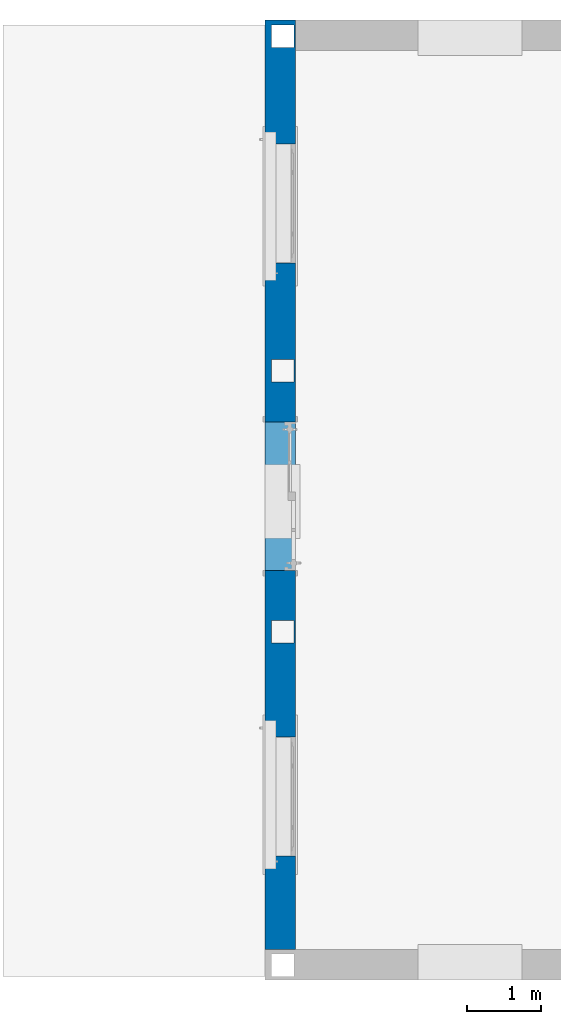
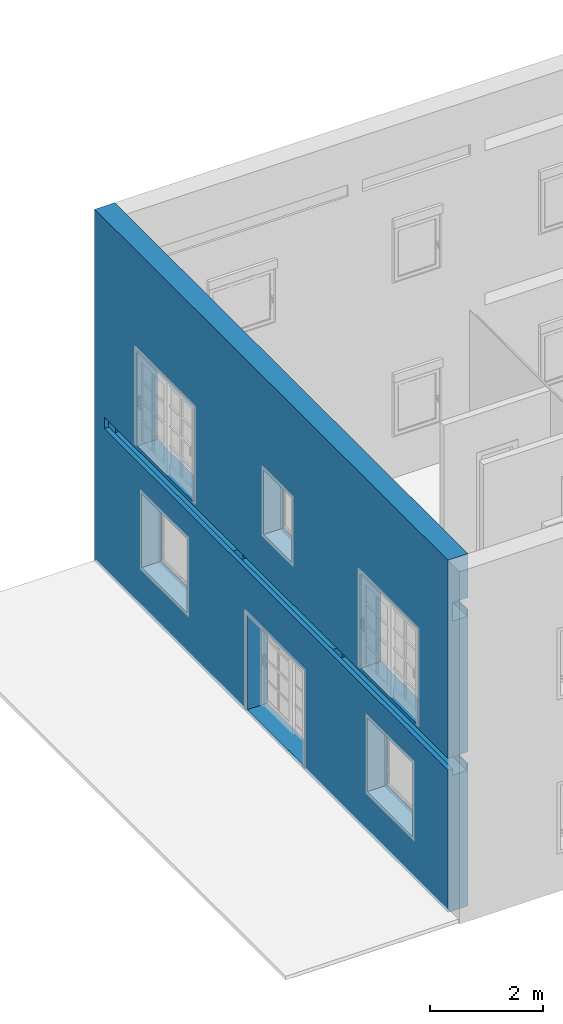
# One storey, part 8 of 11: 1 wall, 6 openings.
"""IFC2X3 building model written with IfcOpenShell, lengths in metres."""

from ifc_helpers import new_model, entity, si_unit, converted_unit, derived_unit, direction, frame, frame_2d, origin, place, context, subcontext, project, spatial, rectangle, extrude, faceted_brep, material, layer, layer_set, type_object, element, save


model = new_model("IFC2X3")

# Units and contexts
model_context = context("Model", 3, precision=1e-05, world=origin(), true_north=direction((6.12303176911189e-17, 1.0)))
context_of_model = context(None, 3, precision=1e-05, world=origin(), true_north=direction((6.12303176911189e-17, 1.0)))
body_context = subcontext(model_context, "Body", "Model", "MODEL_VIEW")
ifc_project = project(units=[si_unit("LENGTHUNIT", "METRE"), si_unit("AREAUNIT", "SQUARE_METRE"), si_unit("VOLUMEUNIT", "CUBIC_METRE"), converted_unit("PLANEANGLEUNIT", "DEGREE", entity("IfcRatioMeasure", 0.0174532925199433), si_unit("PLANEANGLEUNIT", "RADIAN"), dimensions=[0, 0, 0, 0, 0, 0, 0]), si_unit("MASSUNIT", "GRAM", prefix="KILO"), si_unit("TIMEUNIT", "SECOND"), si_unit("FREQUENCYUNIT", "HERTZ"), si_unit("THERMODYNAMICTEMPERATUREUNIT", "DEGREE_CELSIUS"), derived_unit("THERMALTRANSMITTANCEUNIT", [(si_unit("MASSUNIT", "GRAM", prefix="KILO"), 1), (si_unit("THERMODYNAMICTEMPERATUREUNIT", "KELVIN"), -1), (si_unit("TIMEUNIT", "SECOND"), -3)]), derived_unit("VOLUMETRICFLOWRATEUNIT", [(si_unit("LENGTHUNIT", "METRE"), 3), (si_unit("TIMEUNIT", "SECOND"), -1)]), si_unit("ELECTRICCURRENTUNIT", "AMPERE"), si_unit("ELECTRICVOLTAGEUNIT", "VOLT"), si_unit("POWERUNIT", "WATT"), si_unit("FORCEUNIT", "NEWTON", prefix="KILO"), si_unit("ILLUMINANCEUNIT", "LUX"), si_unit("LUMINOUSFLUXUNIT", "LUMEN"), si_unit("LUMINOUSINTENSITYUNIT", "CANDELA"), si_unit("PRESSUREUNIT", "PASCAL")], contexts=[model_context, context_of_model])

# Site, building, storey
site_placement = place(None, origin())
site = spatial("IfcSite", under=ifc_project, at=site_placement, Name="Default", CompositionType="ELEMENT")
building_placement = place(site_placement, origin())
building = spatial("IfcBuilding", under=site, at=building_placement, CompositionType="ELEMENT")
storey_placement = place(building_placement, frame((0.0, 0.0, 0.12)))
storey = spatial("IfcBuildingStorey", under=building, at=storey_placement, Name="01.ES.FORJADO PLANTA BAJA", CompositionType="ELEMENT", Elevation=0.12)

# Wall, openings
ifc_material_1 = material(Name="APL-Enfoscado de mortero de cemento de resistencia muy alta a la filtración (B3)")
ifc_layer_1 = layer(ifc_material_1, 0.015)
ifc_material_2 = material(Name="APL-Pared de obra de fabrica de ladrillo ceramico perforado, de e=11,5cm")
ifc_layer_2 = layer(ifc_material_2, 0.115)
ifc_material_3 = material(Name="APL-Camara de aire no ventilada")
ifc_layer_3 = layer(ifc_material_3, 0.075)
ifc_material_4 = material(Name="APL-Poliestireno expandido elastificado de e=0.037")
ifc_layer_4 = layer(ifc_material_4, 0.12)
ifc_material_5 = material(Name="APL-Tabique de obra de fabrica de ladrillo ceramico hueco doble, de e=7cm")
ifc_layer_5 = layer(ifc_material_5, 0.07)
ifc_material_6 = material(Name="APL-Guarnecido de yeso")
ifc_layer_6 = layer(ifc_material_6, 0.015)
ifc_layer_set = layer_set([ifc_layer_1, ifc_layer_2, ifc_layer_3, ifc_layer_4, ifc_layer_5, ifc_layer_6], Name="Muro básico:F3.2")
wall_type = type_object("IfcWallType", Name="Muro básico:F3.2", PredefinedType="STANDARD", material=ifc_layer_set)
wall_placement = place(storey_placement, frame((4.17999999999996, 0.815000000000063, 0.0), z_axis=(0.0, 0.0, 1.0), x_axis=(0.0, 1.0, 0.0)))
wall = element("IfcWall", 1, at=wall_placement, inside=storey, type_object=wall_type, Name="Muro básico:F3.2", ObjectType="Muro básico:F3.2", context=body_context, shape_type="Brep", body=[
    faceted_brep([(0.0, -0.205, 0.0), (12.0915177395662, -0.205, 0.0), (12.5015177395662, -0.205, 0.0), (12.5015177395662, -0.205, 7.61), (12.0915177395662, -0.205, 7.61), (0.0, -0.205, 7.61), (0.0, -0.205, 6.66), (12.0915177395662, -0.205, 6.66), (12.1349999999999, -0.205, 6.66), (12.1349999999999, -0.205, 6.41), (12.0915177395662, -0.205, 6.41), (7.24006108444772, -0.205, 6.41), (7.09006108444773, -0.205, 6.41), (4.44006108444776, -0.205, 6.41), (4.29006108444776, -0.205, 6.41), (0.0, -0.205, 6.41), (0.0, -0.205, 3.33), (4.29006108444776, -0.205, 3.33), (4.44006108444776, -0.205, 3.33), (7.09006108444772, -0.205, 3.33), (7.24006108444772, -0.205, 3.33), (12.1599999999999, -0.205, 3.33), (12.1599999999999, -0.205, 3.08), (0.0, -0.205, 3.08), (1.08003054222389, -0.205, 3.41), (1.08003054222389, -0.205, 5.45999999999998), (3.08003054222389, -0.205, 5.45999999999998), (3.08003054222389, -0.205, 3.41), (8.99651773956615, -0.205, 3.41), (8.99651773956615, -0.205, 5.45999999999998), (10.9965177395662, -0.205, 5.45999999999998), (10.9965177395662, -0.205, 3.41), (7.09651773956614, -0.205, 2.12999999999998), (7.09651773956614, -0.205, 0.0800000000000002), (5.09651773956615, -0.205, 0.0800000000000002), (5.09651773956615, -0.205, 2.12999999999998), (9.23651773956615, -0.205, 0.879999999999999), (9.23651773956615, -0.205, 2.48), (10.8365177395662, -0.205, 2.48), (10.8365177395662, -0.205, 0.879999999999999), (1.255, -0.205, 0.879999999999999), (1.255, -0.205, 2.48), (2.855, -0.205, 2.48), (2.855, -0.205, 0.879999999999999), (5.52506108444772, -0.205, 4.21), (5.52506108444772, -0.205, 5.61), (6.52506108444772, -0.205, 5.61), (6.52506108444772, -0.205, 4.21), (12.5015177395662, 0.205, 0.0), (0.0, 0.205, 0.0), (0.0, 0.205, 3.08), (12.1599999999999, 0.205, 3.08), (12.1599999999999, 0.205, 3.33), (0.0, 0.205, 3.33), (0.0, 0.205, 7.61), (12.5015177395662, 0.205, 7.61), (1.08003054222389, 0.205, 5.45999999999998), (1.08003054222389, 0.205, 3.41), (3.08003054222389, 0.205, 3.41), (3.08003054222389, 0.205, 5.45999999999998), (8.99651773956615, 0.205, 5.45999999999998), (8.99651773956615, 0.205, 3.41), (10.9965177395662, 0.205, 3.41), (10.9965177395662, 0.205, 5.45999999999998), (7.09651773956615, 0.205, 0.0800000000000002), (7.09651773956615, 0.205, 2.12999999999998), (5.09651773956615, 0.205, 2.12999999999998), (5.09651773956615, 0.205, 0.0800000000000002), (9.23651773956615, 0.205, 2.48), (9.23651773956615, 0.205, 0.879999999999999), (10.8365177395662, 0.205, 0.879999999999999), (10.8365177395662, 0.205, 2.48), (1.255, 0.205, 2.48), (1.255, 0.205, 0.879999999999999), (2.855, 0.205, 0.879999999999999), (2.855, 0.205, 2.48), (5.52506108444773, 0.205, 5.61), (5.52506108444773, 0.205, 4.21), (6.52506108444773, 0.205, 4.21), (6.52506108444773, 0.205, 5.61), (12.4349999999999, -0.18500000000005, 0.0), (12.4349999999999, 0.11499999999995, 0.0), (12.1349999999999, 0.114999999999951, 0.0), (12.1349999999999, -0.185000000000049, 0.0), (7.93499999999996, -0.185000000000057, 0.0), (7.93499999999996, 0.114999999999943, 0.0), (7.63499999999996, 0.114999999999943, 0.0), (7.63499999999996, -0.185000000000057, 0.0), (4.42506108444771, -0.185000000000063, 0.0), (4.42506108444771, 0.114999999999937, 0.0), (4.12506108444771, 0.114999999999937, 0.0), (4.12506108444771, -0.185000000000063, 0.0), (12.1599999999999, -0.185000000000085, 3.33), (12.1599999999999, 0.11499999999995, 3.33), (12.1349999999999, 0.11499999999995, 3.33), (12.1349999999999, -0.185000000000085, 3.33), (4.12506108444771, 0.114999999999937, 3.33), (4.12506108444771, -0.185000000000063, 3.33), (4.42506108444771, -0.185000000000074, 3.33), (4.42506108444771, 0.114999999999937, 3.33), (7.93499999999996, -0.185000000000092, 3.33), (7.93499999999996, 0.114999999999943, 3.33), (7.63499999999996, 0.114999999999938, 3.33), (7.63499999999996, -0.185000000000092, 3.33), (7.63499999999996, -0.185000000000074, 2.93), (4.42506108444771, -0.185000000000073, 2.93), (4.12506108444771, -0.185000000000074, 2.93), (0.0, -0.185000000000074, 2.93), (0.0, -0.185000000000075, 3.08), (12.1599999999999, -0.185000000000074, 3.08), (12.1349999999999, -0.185000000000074, 6.41), (12.1349999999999, -0.185000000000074, 6.66), (12.4349999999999, -0.18500000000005, 6.66), (12.4349999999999, -0.18500000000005, 3.33), (12.1349999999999, -0.185000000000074, 2.93), (7.93499999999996, -0.185000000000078, 2.93), (4.12506108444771, 0.114999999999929, 2.93), (0.0, 0.114999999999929, 2.93), (7.93499999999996, 0.11499999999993, 2.93), (12.1349999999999, 0.11499999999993, 2.93), (12.4349999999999, 0.114999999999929, 3.33), (12.4349999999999, 0.114999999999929, 6.66), (12.1349999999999, 0.114999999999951, 6.66), (12.1599999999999, 0.114999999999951, 3.08), (0.0, 0.11499999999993, 3.08), (4.42506108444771, 0.114999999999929, 2.93), (7.63499999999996, 0.11499999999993, 2.93), (0.0, 0.114999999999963, 6.66), (4.12506108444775, 0.114999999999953, 6.66), (4.42506108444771, 0.114999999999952, 6.66), (7.63499999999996, 0.114999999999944, 6.66), (7.93499999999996, 0.114999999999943, 6.66), (7.93499999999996, -0.185000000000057, 6.66), (4.12506108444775, -0.185000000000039, 6.26), (0.0, -0.185000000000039, 6.26), (0.0, -0.18500000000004, 6.41), (7.93499999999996, -0.185000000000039, 6.41), (7.63499999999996, -0.185000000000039, 6.26), (4.42506108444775, -0.185000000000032, 6.26), (4.12506108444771, 0.114999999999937, 6.26), (0.0, 0.114999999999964, 6.26), (4.42506108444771, 0.114999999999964, 6.26), (7.63499999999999, 0.114999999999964, 6.26)], [[[0, 1, 2, 3, 4, 5, 6, 7, 8, 9, 10, 11, 12, 13, 14, 15, 16, 17, 18, 19, 20, 21, 22, 23], [24, 25, 26, 27], [28, 29, 30, 31], [32, 33, 34, 35], [36, 37, 38, 39], [40, 41, 42, 43], [44, 45, 46, 47]], [[48, 49, 50, 51, 52, 53, 54, 55], [56, 57, 58, 59], [60, 61, 62, 63], [64, 65, 66, 67], [68, 69, 70, 71], [72, 73, 74, 75], [76, 77, 78, 79]], [[2, 1, 0, 49, 48], [80, 81, 82, 83], [84, 85, 86, 87], [88, 89, 90, 91]], [[5, 4, 3, 55, 54]], [[92, 21, 20, 19, 18, 17, 16, 53, 52, 93, 94, 95], [96, 97, 98, 99], [100, 101, 102, 103]], [[84, 87, 104, 105, 88, 91, 106, 107, 108, 109, 92, 95, 110, 111, 112, 113, 80, 83, 114, 115]], [[107, 106, 116, 117]], [[86, 85, 118, 119, 82, 81, 120, 121, 122, 94, 93, 123, 124, 117, 116, 90, 89, 125, 126]], [[111, 8, 7, 6, 127, 128, 129, 130, 131, 132]], [[133, 134, 135, 136, 100, 103, 137, 138, 98, 97]], [[134, 133, 139, 140]], [[140, 139, 96, 99, 141, 142, 102, 101, 131, 130, 129, 128, 127]], [[9, 110, 136, 135, 15, 14, 13, 12, 11, 10]], [[110, 111, 132, 136]], [[111, 110, 9, 8]], [[22, 109, 108, 23]], [[109, 22, 21, 92]], [[124, 123, 51, 50]], [[51, 123, 93, 52]], [[25, 24, 57, 56]], [[26, 25, 56, 59]], [[27, 26, 59, 58]], [[24, 27, 58, 57]], [[29, 28, 61, 60]], [[30, 29, 60, 63]], [[31, 30, 63, 62]], [[28, 31, 62, 61]], [[65, 64, 33, 32]], [[66, 65, 32, 35]], [[67, 66, 35, 34]], [[64, 67, 34, 33]], [[121, 112, 111, 122]], [[112, 121, 120, 81, 80, 113]], [[122, 111, 110, 95, 94]], [[99, 98, 138, 141]], [[133, 97, 96, 139]], [[132, 131, 101, 100, 136]], [[103, 102, 142, 137]], [[90, 116, 106, 91]], [[37, 36, 69, 68]], [[38, 37, 68, 71]], [[39, 38, 71, 70]], [[36, 39, 70, 69]], [[41, 40, 73, 72]], [[42, 41, 72, 75]], [[43, 42, 75, 74]], [[40, 43, 74, 73]], [[45, 44, 77, 76]], [[46, 45, 76, 79]], [[47, 46, 79, 78]], [[44, 47, 78, 77]], [[126, 125, 105, 104]], [[138, 137, 142, 141]], [[119, 118, 115, 114]], [[2, 48, 55, 3]], [[49, 0, 23, 108, 107, 117, 124, 50]], [[5, 54, 53, 16, 15, 135, 134, 140, 127, 6]], [[87, 86, 126, 104]], [[85, 84, 115, 118]], [[89, 88, 105, 125]], [[83, 82, 119, 114]]]),
])
opening_1_placement = place(wall_placement, frame((1.08003054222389, -0.204999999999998, 3.41)))
element("IfcOpeningElement", 2, at=opening_1_placement, cuts=wall, Name="Puerta Balcón - 2 hojas corredizas:200 x 205 cm - 8 Vidrios repartidos:1", ObjectType="Opening", context=body_context, shape_type="SweptSolid", body=[
    extrude(rectangle(XDim=2.04999999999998, YDim=2.0, at=frame_2d((1.02499999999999, 1.0), x_axis=(1.0, 0.0))), frame((0.0, 0.0, 0.0), z_axis=(0.0, 1.0, 0.0), x_axis=(0.0, 0.0, 1.0)), (0.0, 0.0, 1.0), 0.41),
])
opening_2_placement = place(wall_placement, frame((8.99651773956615, -0.204999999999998, 3.41)))
element("IfcOpeningElement", 3, at=opening_2_placement, cuts=wall, Name="Puerta Balcón - 2 hojas corredizas:200 x 205 cm - 8 Vidrios repartidos:1", ObjectType="Opening", context=body_context, shape_type="SweptSolid", body=[
    extrude(rectangle(XDim=2.04999999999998, YDim=2.0, at=frame_2d((1.02499999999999, 1.0), x_axis=(1.0, 0.0))), frame((0.0, 0.0, 0.0), z_axis=(0.0, 1.0, 0.0), x_axis=(0.0, 0.0, 1.0)), (0.0, 0.0, 1.0), 0.41),
])
opening_3_placement = place(wall_placement, frame((7.09651773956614, 0.204999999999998, 0.0799999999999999)))
element("IfcOpeningElement", 4, at=opening_3_placement, cuts=wall, Name="Puerta Balcón - 2 hojas corredizas:200 x 205 cm - 8 Vidrios repartidos:1", ObjectType="Opening", context=body_context, shape_type="SweptSolid", body=[
    extrude(rectangle(XDim=2.04999999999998, YDim=2.0, at=frame_2d((1.02499999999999, 0.999999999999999), x_axis=(1.0, 0.0))), frame((0.0, 0.0, 0.0), z_axis=(0.0, -1.0, 0.0), x_axis=(0.0, 0.0, 1.0)), (0.0, 0.0, 1.0), 0.41),
])
opening_4_placement = place(wall_placement, frame((9.23651773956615, -0.205000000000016, 0.879999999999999)))
element("IfcOpeningElement", 5, at=opening_4_placement, cuts=wall, Name="Ventana 1 hoja:VE1_160 x 160 cm:1", ObjectType="Opening", context=body_context, shape_type="SweptSolid", body=[
    extrude(rectangle(XDim=1.6, YDim=1.6, at=frame_2d((0.8, 0.800000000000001), x_axis=(1.0, 0.0))), frame((0.0, 0.0, 0.0), z_axis=(0.0, 1.0, 0.0), x_axis=(0.0, 0.0, 1.0)), (0.0, 0.0, 1.0), 0.41),
])
opening_5_placement = place(wall_placement, frame((1.255, -0.205000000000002, 0.879999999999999)))
element("IfcOpeningElement", 6, at=opening_5_placement, cuts=wall, Name="Ventana 1 hoja:VE1_160 x 160 cm:1", ObjectType="Opening", context=body_context, shape_type="SweptSolid", body=[
    extrude(rectangle(XDim=1.6, YDim=1.6, at=frame_2d((0.8, 0.8), x_axis=(1.0, 0.0))), frame((0.0, 0.0, 0.0), z_axis=(0.0, 1.0, 0.0), x_axis=(0.0, 0.0, 1.0)), (0.0, 0.0, 1.0), 0.41),
])
opening_6_placement = place(wall_placement, frame((5.52506108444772, -0.205000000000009, 4.21)))
element("IfcOpeningElement", 7, at=opening_6_placement, cuts=wall, Name="Ventana 1 hoja:VE1_100 x 140 cm:1", ObjectType="Opening", context=body_context, shape_type="SweptSolid", body=[
    extrude(rectangle(XDim=1.4, YDim=1.0, at=frame_2d((0.7, 0.5), x_axis=(1.0, 0.0))), frame((0.0, 0.0, 0.0), z_axis=(0.0, 1.0, 0.0), x_axis=(0.0, 0.0, 1.0)), (0.0, 0.0, 1.0), 0.41),
])

save(model, "model.ifc")
